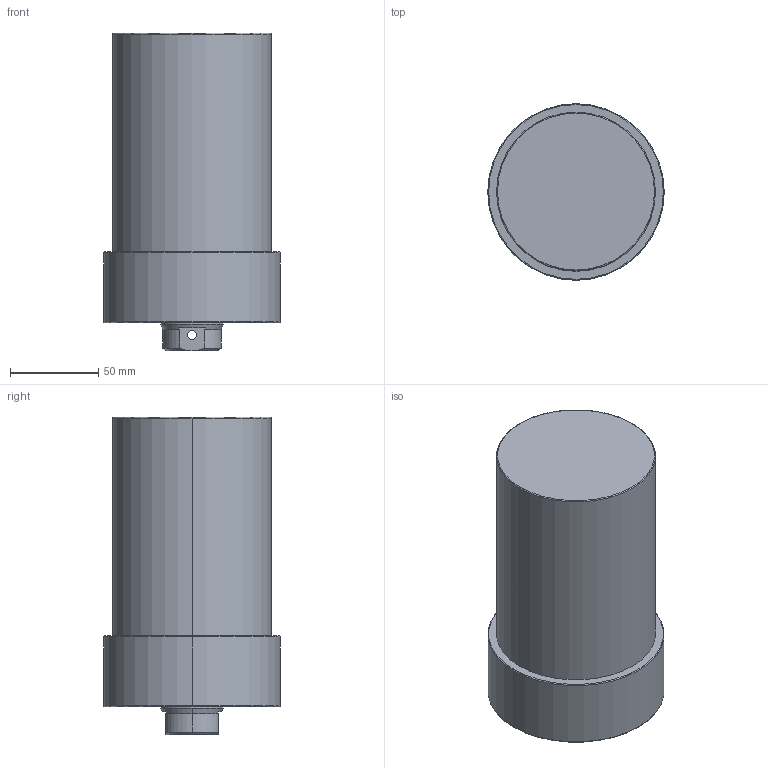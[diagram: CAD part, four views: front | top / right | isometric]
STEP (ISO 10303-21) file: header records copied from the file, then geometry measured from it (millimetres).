
FILE_DESCRIPTION (( 'STEP AP203' ), '1' );
FILE_NAME ('CLLU-090GB-080.STEP', '2020-01-13T05:47:17', ( '' ), ( '' ), 'SwSTEP 2.0', 'SolidWorks 2015', '' );
FILE_SCHEMA (( 'CONFIG_CONTROL_DESIGN' ));
Length unit declared in the file: millimetre
Products named in the file (1): CLLU-090GB-080
Bounding box: 100 x 100 x 180 mm (x, y, z)
Volume: 1096502.1 mm3; surface area: 70660.3 mm2
Topology: 1 solids, 1 shells, 68 faces, 155 edges, 88 vertices
Faces by surface type: cylinder 27, cone 25, plane 10, torus 6
Entity records: 2061 total; most frequent: CARTESIAN_POINT 462, DIRECTION 350, ORIENTED_EDGE 290, AXIS2_PLACEMENT_3D 148, EDGE_CURVE 145, VERTEX_POINT 88, EDGE_LOOP 81, CIRCLE 79
